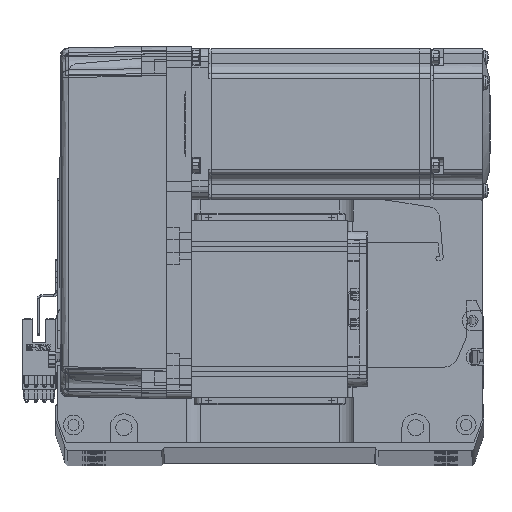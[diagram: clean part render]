
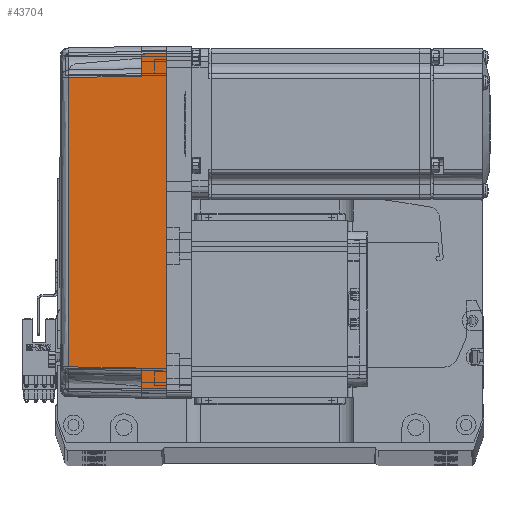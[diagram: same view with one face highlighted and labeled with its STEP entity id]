
A CAD part, top view. The second image highlights one B-rep face of the part: STEP entity #43704.
In plain terms, the highlighted planar face has unit normal (-0.018, 0, 1) as drawn and (0, 1, 0.017) by its records, which use the part's own axes.
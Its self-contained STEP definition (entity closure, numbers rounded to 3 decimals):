
#487 = LINE ( 'NONE', #43332, #67782 ) ;
#500 = EDGE_CURVE ( 'NONE', #28436, #65891, #35081, .T. ) ;
#676 = CARTESIAN_POINT ( 'NONE',  ( -67., 36., 0. ) ) ;
#2611 = EDGE_CURVE ( 'NONE', #67185, #28436, #13822, .T. ) ;
#3418 = VERTEX_POINT ( 'NONE', #39695 ) ;
#3680 = ORIENTED_EDGE ( 'NONE', *, *, #2611, .T. ) ;
#6564 = PLANE ( 'NONE',  #62952 ) ;
#11685 = CARTESIAN_POINT ( 'NONE',  ( 70., 35.825, 10. ) ) ;
#11826 = ORIENTED_EDGE ( 'NONE', *, *, #39352, .T. ) ;
#13822 = B_SPLINE_CURVE_WITH_KNOTS ( 'NONE', 3,
 ( #64555, #58400, #58165, #36029 ),
 .UNSPECIFIED., .F., .F.,
 ( 4, 4 ),
 ( 0., 1. ),
 .UNSPECIFIED. ) ;
#15448 = CARTESIAN_POINT ( 'NONE',  ( 67.001, 36.001, -0.052 ) ) ;
#16612 = LINE ( 'NONE', #61159, #40429 ) ;
#19772 = VECTOR ( 'NONE', #46543, 1000. ) ;
#21128 = LINE ( 'NONE', #15448, #34375 ) ;
#21644 = EDGE_CURVE ( 'NONE', #31179, #64603, #21128, .T. ) ;
#21935 = CARTESIAN_POINT ( 'NONE',  ( -66.826, 35.825, 10. ) ) ;
#23250 = VECTOR ( 'NONE', #46397, 1000. ) ;
#24028 = CARTESIAN_POINT ( 'NONE',  ( 0., 36., 0. ) ) ;
#25570 = CARTESIAN_POINT ( 'NONE',  ( -57.495, 35.32, 38.985 ) ) ;
#28436 = VERTEX_POINT ( 'NONE', #68747 ) ;
#31179 = VERTEX_POINT ( 'NONE', #31292 ) ;
#31292 = CARTESIAN_POINT ( 'NONE',  ( 67., 36., 0. ) ) ;
#31480 = VERTEX_POINT ( 'NONE', #676 ) ;
#33030 = LINE ( 'NONE', #11685, #19772 ) ;
#34185 = EDGE_CURVE ( 'NONE', #31480, #57287, #16612, .T. ) ;
#34375 = VECTOR ( 'NONE', #61463, 1000. ) ;
#35081 = LINE ( 'NONE', #62842, #54668 ) ;
#36029 = CARTESIAN_POINT ( 'NONE',  ( 57.495, 35.32, 38.985 ) ) ;
#36092 = ORIENTED_EDGE ( 'NONE', *, *, #43461, .T. ) ;
#36344 = EDGE_CURVE ( 'NONE', #57287, #3418, #33030, .T. ) ;
#39352 = EDGE_CURVE ( 'NONE', #3418, #67185, #69244, .T. ) ;
#39695 = CARTESIAN_POINT ( 'NONE',  ( -58., 35.825, 10. ) ) ;
#40429 = VECTOR ( 'NONE', #72735, 1000. ) ;
#41128 = EDGE_LOOP ( 'NONE', ( #62883, #52350, #11826, #3680, #46362, #36092, #68298, #66291 ) ) ;
#43096 = DIRECTION ( 'NONE',  ( 0.017, -0.017, 1. ) ) ;
#43332 = CARTESIAN_POINT ( 'NONE',  ( 70., 35.825, 10. ) ) ;
#43461 = EDGE_CURVE ( 'NONE', #65891, #64603, #487, .T. ) ;
#43704 = ADVANCED_FACE ( 'NONE', ( #66862 ), #6564, .T. ) ;
#46362 = ORIENTED_EDGE ( 'NONE', *, *, #500, .T. ) ;
#46397 = DIRECTION ( 'NONE',  ( 1., 0., 0. ) ) ;
#46543 = DIRECTION ( 'NONE',  ( 1., 0., 0. ) ) ;
#51106 = DIRECTION ( 'NONE',  ( 0., 1., 0.017 ) ) ;
#51823 = DIRECTION ( 'NONE',  ( 0., -0.017, 1. ) ) ;
#52350 = ORIENTED_EDGE ( 'NONE', *, *, #36344, .T. ) ;
#54668 = VECTOR ( 'NONE', #63837, 1000. ) ;
#56930 = VECTOR ( 'NONE', #43096, 1000. ) ;
#57287 = VERTEX_POINT ( 'NONE', #21935 ) ;
#57509 = CARTESIAN_POINT ( 'NONE',  ( 70., 36., 0. ) ) ;
#58165 = CARTESIAN_POINT ( 'NONE',  ( 19.165, 35.316, 39.181 ) ) ;
#58400 = CARTESIAN_POINT ( 'NONE',  ( -19.165, 35.316, 39.181 ) ) ;
#60088 = EDGE_CURVE ( 'NONE', #31480, #31179, #65868, .T. ) ;
#60157 = CARTESIAN_POINT ( 'NONE',  ( -58., 35.825, 10. ) ) ;
#60165 = DIRECTION ( 'NONE',  ( 1., 0., 0. ) ) ;
#60773 = CARTESIAN_POINT ( 'NONE',  ( 58., 35.825, 10. ) ) ;
#61159 = CARTESIAN_POINT ( 'NONE',  ( -67., 36., 0. ) ) ;
#61463 = DIRECTION ( 'NONE',  ( -0.017, -0.017, 1. ) ) ;
#62842 = CARTESIAN_POINT ( 'NONE',  ( 57.495, 35.32, 38.985 ) ) ;
#62883 = ORIENTED_EDGE ( 'NONE', *, *, #34185, .T. ) ;
#62952 = AXIS2_PLACEMENT_3D ( 'NONE', #57509, #51106, #51823 ) ;
#63837 = DIRECTION ( 'NONE',  ( 0.017, 0.017, -1. ) ) ;
#64120 = CARTESIAN_POINT ( 'NONE',  ( 66.826, 35.825, 10. ) ) ;
#64555 = CARTESIAN_POINT ( 'NONE',  ( -57.495, 35.32, 38.985 ) ) ;
#64603 = VERTEX_POINT ( 'NONE', #64120 ) ;
#65868 = LINE ( 'NONE', #24028, #23250 ) ;
#65891 = VERTEX_POINT ( 'NONE', #60773 ) ;
#66291 = ORIENTED_EDGE ( 'NONE', *, *, #60088, .F. ) ;
#66862 = FACE_OUTER_BOUND ( 'NONE', #41128, .T. ) ;
#67185 = VERTEX_POINT ( 'NONE', #25570 ) ;
#67782 = VECTOR ( 'NONE', #60165, 1000. ) ;
#68298 = ORIENTED_EDGE ( 'NONE', *, *, #21644, .F. ) ;
#68747 = CARTESIAN_POINT ( 'NONE',  ( 57.495, 35.32, 38.985 ) ) ;
#69244 = LINE ( 'NONE', #60157, #56930 ) ;
#72735 = DIRECTION ( 'NONE',  ( 0.017, -0.017, 1. ) ) ;
